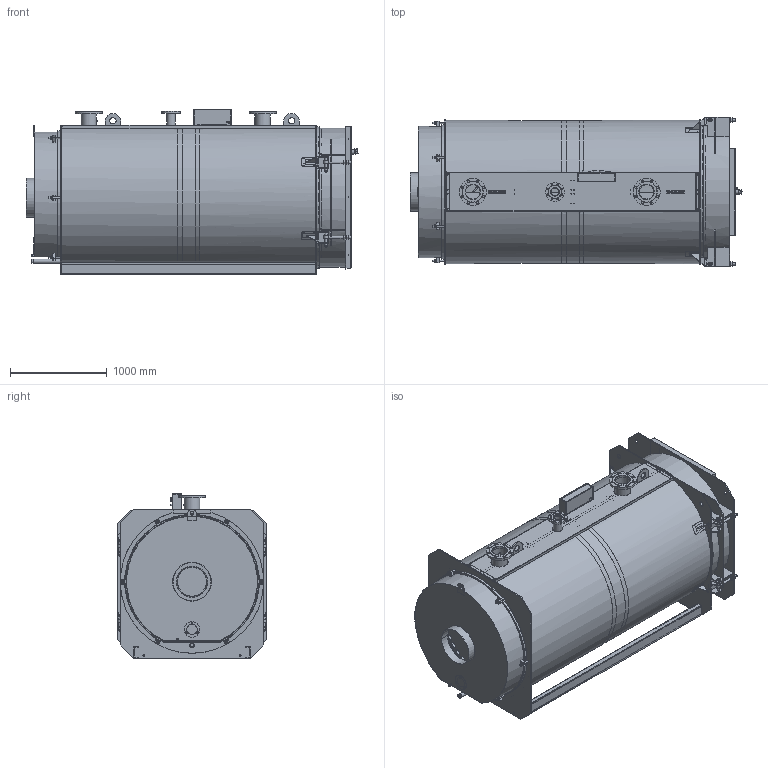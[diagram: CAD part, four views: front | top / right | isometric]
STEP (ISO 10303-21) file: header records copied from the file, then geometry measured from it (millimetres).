
FILE_DESCRIPTION(('STEP AP242'), '1');
FILE_NAME('TITAN Prom 4 (1600-1800 êÂò)', '', ('UNSPECIFIED'), ('UNSPECIFIED'), 'ASCON STEP Converter 1.6', 'ASCON Math Kernel', '');
FILE_SCHEMA(('AP242_MANAGED_MODEL_BASED_3D_ENGINEERING_MIM_LF { 1 0 10303 442 1 1 4 }'));
Length unit declared in the file: millimetre
Bounding box: 3437.43 x 1544 x 1708.16 mm (x, y, z)
Volume: 381388530.9 mm3; surface area: 55795874.2 mm2
Topology: 42 solids, 42 shells, 3410 faces, 8512 edges, 5379 vertices
Faces by surface type: plane 1997, cylinder 976, cone 322, bspline 80, torus 20, extrusion 9, sphere 6
Full cylindrical faces by diameter (mm): 2 x4, 2.8 x27, 3 x1, 3.5 x8, 3.6 x4, 4 x12, 4.5 x8, 4.8 x1, 5 x27, 6 x5, 6.3 x4, 7 x8, 7.6 x1, 8 x3, 9 x2, 9.25 x4, 9.728 x1, 10 x6, 10.5 x1, 11 x1, 12 x12, 13 x9, 13.835 x6, 14 x4, 14.5 x1, 15 x3, 15.7 x1, 16 x18, 17 x10, 18 x10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
Entity records: 165946 total; most frequent: CARTESIAN_POINT 58834, DIRECTION 15997, ORIENTED_EDGE 15344, EDGE_CURVE 7672, AXIS2_PLACEMENT_3D 5820, VERTEX_POINT 5374, EDGE_LOOP 5144, VECTOR 4357
